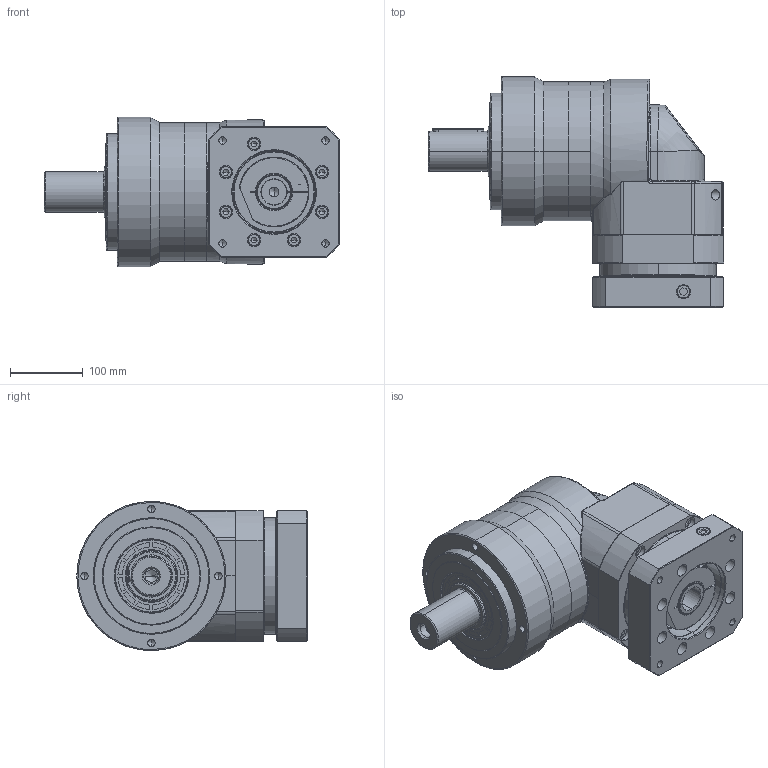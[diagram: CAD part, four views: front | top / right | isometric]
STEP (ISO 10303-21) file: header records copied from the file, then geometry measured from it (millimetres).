
FILE_DESCRIPTION (( 'STEP AP214' ), '1' );
FILE_NAME ('EVL205-L1-S2-P1 35-114.3-200-M12-82.STEP', '2025-02-14T09:17:30', ( '微软用户' ), ( '微软中国' ), 'SwSTEP 2.0', 'SolidWorks 2021', '' );
FILE_SCHEMA (( 'AUTOMOTIVE_DESIGN' ));
Length unit declared in the file: millimetre
Products named in the file (4): 23-EVT200F_________igs.stp.STEP; VRL205D-L1-S2-35-114.3-200-M12-82.STEP; EVL205-L1-S2-P1 35-114.3-200-M12-82; EVT200D-L1-30-180-215-M12-87.STEP
Assembly tree (11 placements, depth 2):
  EVL205-L1-S2-P1 35-114.3-200-M12-82
    VRL205D-L1-S2-35-114.3-200-M12-82.STEP
    23-EVT200F_________igs.stp.STEP
    EVT200D-L1-30-180-215-M12-87.STEP  x9
Bounding box: 405.5 x 316.5 x 205 mm (x, y, z)
Volume: 2304801.6 mm3; surface area: 958331.4 mm2
Topology: 1 solids, 58 shells, 1981 faces, 4714 edges, 2899 vertices
Faces by surface type: cylinder 648, plane 530, bspline 462, cone 284, torus 57
Entity records: 92757 total; most frequent: CARTESIAN_POINT 56049, ORIENTED_EDGE 8094, DIRECTION 6695, EDGE_CURVE 4107, AXIS2_PLACEMENT_3D 2727, VERTEX_POINT 2571, EDGE_LOOP 1989, FACE_OUTER_BOUND 1758
